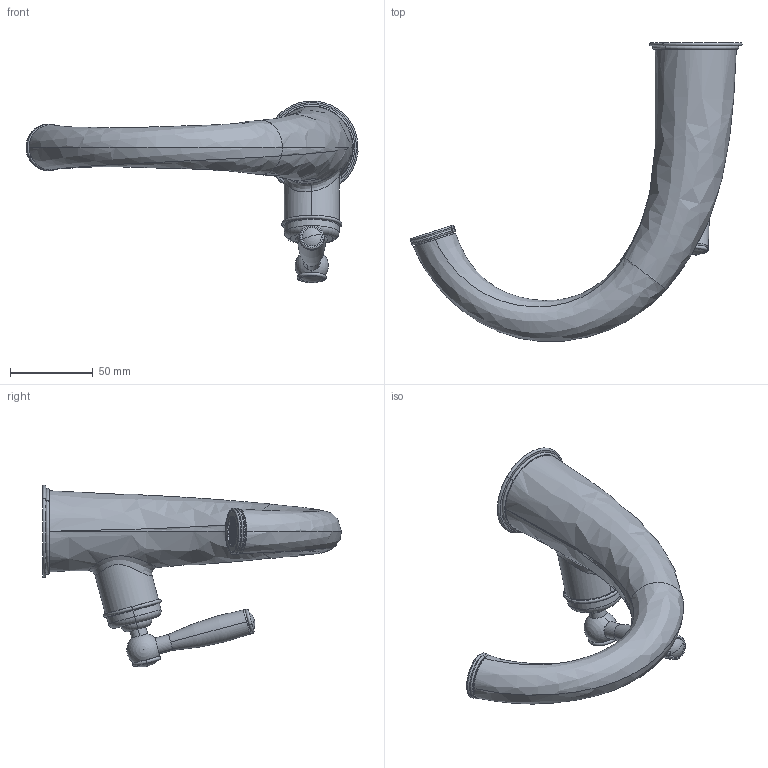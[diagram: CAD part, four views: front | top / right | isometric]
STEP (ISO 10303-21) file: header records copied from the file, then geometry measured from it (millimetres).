
FILE_DESCRIPTION (( 'STEP AP214' ), '1' );
FILE_NAME ('84330110.STEP', '2026-03-24T10:08:47', ( '' ), ( '' ), 'SwSTEP 2.0', 'SolidWorks 2020', '' );
FILE_SCHEMA (( 'AUTOMOTIVE_DESIGN' ));
Length unit declared in the file: millimetre
Products named in the file (1): 84330110
Bounding box: 200.08 x 180.12 x 109.53 mm (x, y, z)
Surface area: 78473.6 mm2 (no closed solid volume)
Topology: 0 solids, 17 shells, 4164 faces, 11983 edges, 7756 vertices
Faces by surface type: plane 3384, cylinder 475, bspline 234, cone 37, torus 32, sphere 2
Entity records: 247207 total; most frequent: CARTESIAN_POINT 105753, ORIENTED_EDGE 23836, DIRECTION 14393, EDGE_CURVE 11963, VERTEX_POINT 7752, B_SPLINE_CURVE_WITH_KNOTS 5383, VECTOR 5319, LINE 5319
